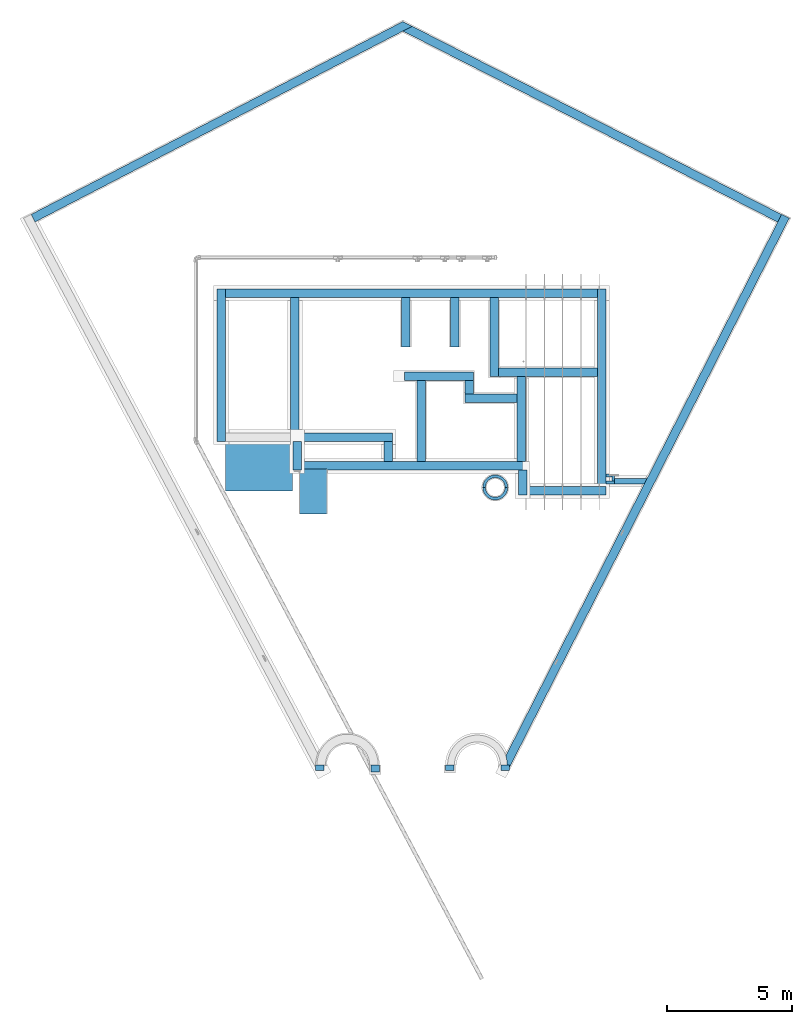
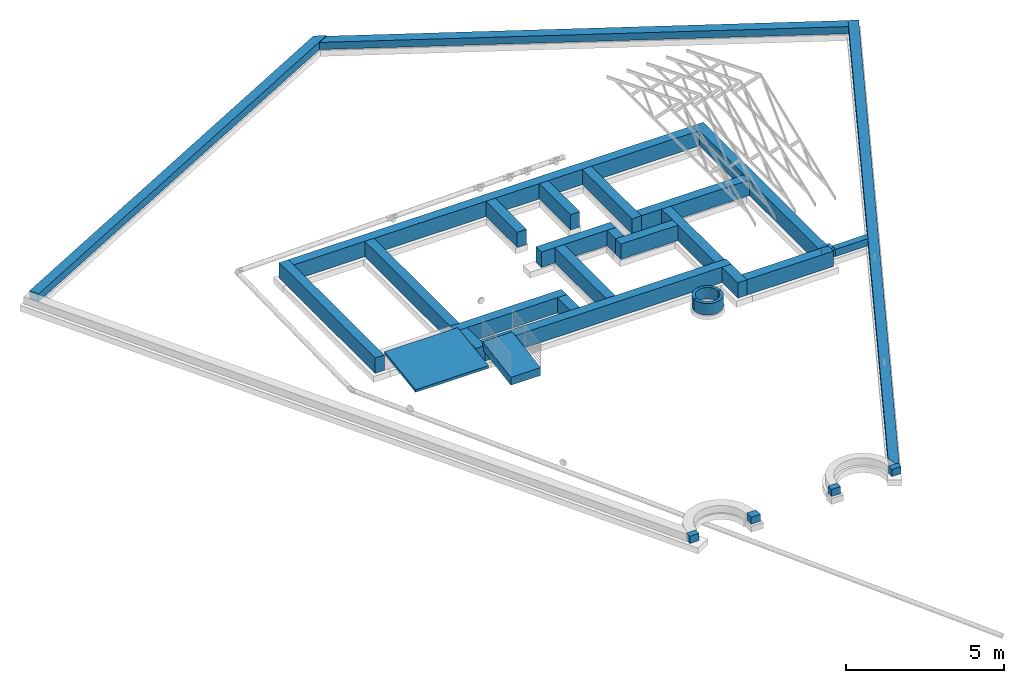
# One storey, part 2 of 8: 32 walls, 2 ramp flights, 2 elements without a shape of their own.
"""IFC2X3 building model written with IfcOpenShell, lengths in millimetres."""

from ifc_helpers import new_model, entity, si_unit, converted_unit, derived_unit, direction, frame, frame_2d, origin, place, context, subcontext, project, spatial, polyline, circle_curve, parameter, trimmed, segment, composite_curve, rectangle, outline, extrude, material, layer, layer_set, layer_usage, type_object, element, aggregate, save


model = new_model("IFC2X3")

# Units and contexts
model_context = context("Model", 3, precision=0.01, world=origin(), true_north=direction((6.12303176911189e-17, 1.0)))
body_context = subcontext(model_context, "Body", "Model", "MODEL_VIEW")
ifc_project = project(units=[si_unit("LENGTHUNIT", "METRE", prefix="MILLI"), si_unit("AREAUNIT", "SQUARE_METRE"), si_unit("VOLUMEUNIT", "CUBIC_METRE"), converted_unit("PLANEANGLEUNIT", "DEGREE", entity("IfcRatioMeasure", 0.0174532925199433), si_unit("PLANEANGLEUNIT", "RADIAN"), dimensions=[0, 0, 0, 0, 0, 0, 0]), si_unit("MASSUNIT", "GRAM", prefix="KILO"), derived_unit("MASSDENSITYUNIT", [(si_unit("MASSUNIT", "GRAM", prefix="KILO"), 1), (si_unit("LENGTHUNIT", "METRE"), -3)]), si_unit("TIMEUNIT", "SECOND"), si_unit("FREQUENCYUNIT", "HERTZ"), si_unit("THERMODYNAMICTEMPERATUREUNIT", "DEGREE_CELSIUS"), derived_unit("THERMALTRANSMITTANCEUNIT", [(si_unit("MASSUNIT", "GRAM", prefix="KILO"), 1), (si_unit("THERMODYNAMICTEMPERATUREUNIT", "KELVIN"), -1), (si_unit("TIMEUNIT", "SECOND"), -3)]), derived_unit("VOLUMETRICFLOWRATEUNIT", [(si_unit("LENGTHUNIT", "METRE"), 3), (si_unit("TIMEUNIT", "SECOND"), -1)]), si_unit("ELECTRICCURRENTUNIT", "AMPERE"), si_unit("ELECTRICVOLTAGEUNIT", "VOLT"), si_unit("POWERUNIT", "WATT"), si_unit("FORCEUNIT", "NEWTON", prefix="KILO"), si_unit("ILLUMINANCEUNIT", "LUX"), si_unit("LUMINOUSFLUXUNIT", "LUMEN"), si_unit("LUMINOUSINTENSITYUNIT", "CANDELA"), derived_unit("USERDEFINED", [(si_unit("MASSUNIT", "GRAM", prefix="KILO"), -1), (si_unit("LENGTHUNIT", "METRE"), -2), (si_unit("TIMEUNIT", "SECOND"), 3), (si_unit("LUMINOUSFLUXUNIT", "LUMEN"), 1)]), derived_unit("LINEARVELOCITYUNIT", [(si_unit("LENGTHUNIT", "METRE"), 1), (si_unit("TIMEUNIT", "SECOND"), -1)]), si_unit("PRESSUREUNIT", "PASCAL"), derived_unit("USERDEFINED", [(si_unit("LENGTHUNIT", "METRE"), -2), (si_unit("MASSUNIT", "GRAM", prefix="KILO"), 1), (si_unit("TIMEUNIT", "SECOND"), -2)])], contexts=[model_context])

# Site, building, storey
site_placement = place(None, origin())
site = spatial("IfcSite", under=ifc_project, at=site_placement, Name="Surface", CompositionType="ELEMENT")
building_placement = place(site_placement, origin())
building = spatial("IfcBuilding", under=site, at=building_placement, CompositionType="ELEMENT")
storey_placement = place(building_placement, frame((0.0, 0.0, -445.0)))
storey = spatial("IfcBuildingStorey", under=building, at=storey_placement, Name="T.O.F", CompositionType="ELEMENT", Elevation=-445.0)

# Walls
ifc_material_1 = material(Name="Brickwork - 110mm (Stock)")
ifc_layer_1 = layer(ifc_material_1, 110.0)
ifc_material_2 = material(Name="Air Infiltration Barrier")
ifc_layer_2 = layer(ifc_material_2, 120.0)
ifc_material_3 = material(Name="Brickwork - Facebrick (Plettenberg Autumn)")
ifc_layer_3 = layer(ifc_material_3, 110.0)
ifc_layer_set_1 = layer_set([ifc_layer_1, ifc_layer_2, ifc_layer_3], Name="Basic Wall:BrickWall Foundation- 340mm (2coarses F.)")
ifc_layer_usage_1 = layer_usage(ifc_layer_set_1, "AXIS2", "NEGATIVE", 170.0)
wall_type_1 = type_object("IfcWallType", Name="Basic Wall:BrickWall Foundation- 340mm (2coarses F.)", PredefinedType="STANDARD", material=ifc_layer_set_1)
wall_1_placement = place(storey_placement, frame((-11916.8751700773, 10825.8400891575, 0.0), z_axis=(0.0, 0.0, 1.0), x_axis=(0.0, -1.0, 0.0)))
element("IfcWallStandardCase", 1, at=wall_1_placement, inside=storey, type_object=wall_type_1, material=ifc_layer_usage_1, Name="Basic Wall:BrickWall Foundation- 340mm (2coarses F.)", ObjectType="Basic Wall:BrickWall Foundation- 340mm (2coarses F.)", context=body_context, shape_type="SweptSolid", body=[
    extrude(rectangle(XDim=6095.0, YDim=340.000000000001, at=frame_2d((3047.5, 0.0), x_axis=(-1.0, 0.0))), origin(), (0.0, 0.0, 1.0), 595.0),
])
ifc_layer_usage_2 = layer_usage(ifc_layer_set_1, "AXIS2", "NEGATIVE", 170.0)
wall_2_placement = place(storey_placement, frame((-8886.87517007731, 4730.84008915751, 0.0), z_axis=(0.0, 0.0, 1.0), x_axis=(0.0, -1.0, 0.0)))
element("IfcWallStandardCase", 2, at=wall_2_placement, inside=storey, type_object=wall_type_1, material=ifc_layer_usage_2, Name="Basic Wall:BrickWall Foundation- 340mm (2coarses F.)", ObjectType="Basic Wall:BrickWall Foundation- 340mm (2coarses F.)", context=body_context, shape_type="SweptSolid", body=[
    extrude(rectangle(XDim=1150.0, YDim=340.000000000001, at=frame_2d((575.000000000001, 0.0), x_axis=(-1.0, 0.0))), origin(), (0.0, 0.0, 1.0), 595.0),
])
ifc_layer_usage_3 = layer_usage(ifc_layer_set_1, "AXIS2", "NEGATIVE", 170.0)
wall_3_placement = place(storey_placement, frame((-8716.87517007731, 3750.84008915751, 0.0)))
element("IfcWallStandardCase", 3, at=wall_3_placement, inside=storey, type_object=wall_type_1, material=ifc_layer_usage_3, Name="Basic Wall:BrickWall Foundation- 340mm (2coarses F.)", ObjectType="Basic Wall:BrickWall Foundation- 340mm (2coarses F.)", context=body_context, shape_type="SweptSolid", body=[
    extrude(rectangle(XDim=9020.00000000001, YDim=340.0, at=frame_2d((4510.00000000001, -1.27897692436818e-13), x_axis=(-1.0, 0.0))), origin(), (0.0, 0.0, 1.0), 595.0),
])
ifc_layer_usage_4 = layer_usage(ifc_layer_set_1, "AXIS2", "NEGATIVE", 170.0)
wall_4_placement = place(storey_placement, frame((133.124829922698, 3580.84008915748, 0.0), z_axis=(0.0, 0.0, 1.0), x_axis=(0.0, -1.0, 0.0)))
element("IfcWallStandardCase", 4, at=wall_4_placement, inside=storey, type_object=wall_type_1, material=ifc_layer_usage_4, Name="Basic Wall:BrickWall Foundation- 340mm (2coarses F.)", ObjectType="Basic Wall:BrickWall Foundation- 340mm (2coarses F.)", context=body_context, shape_type="SweptSolid", body=[
    extrude(rectangle(XDim=999.999999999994, YDim=340.0, at=frame_2d((499.999999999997, 0.0), x_axis=(-1.0, 0.0))), origin(), (0.0, 0.0, 1.0), 595.0),
])
ifc_layer_usage_5 = layer_usage(ifc_layer_set_1, "AXIS2", "NEGATIVE", 170.0)
wall_5_placement = place(storey_placement, frame((303.124829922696, 2750.84008915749, 0.0)))
element("IfcWallStandardCase", 5, at=wall_5_placement, inside=storey, type_object=wall_type_1, material=ifc_layer_usage_5, Name="Basic Wall:BrickWall Foundation- 340mm (2coarses F.)", ObjectType="Basic Wall:BrickWall Foundation- 340mm (2coarses F.)", context=body_context, shape_type="SweptSolid", body=[
    extrude(rectangle(XDim=3160.0, YDim=340.0, at=frame_2d((1580.0, -1.4210854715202e-14), x_axis=(-1.0, 0.0))), origin(), (0.0, 0.0, 1.0), 595.0),
])
ifc_layer_usage_6 = layer_usage(ifc_layer_set_1, "AXIS2", "NEGATIVE", 170.0)
wall_6_placement = place(storey_placement, frame((3293.1248299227, 2920.84008915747, 0.0), z_axis=(0.0, 0.0, 1.0), x_axis=(0.0, 1.0, 0.0)))
element("IfcWallStandardCase", 6, at=wall_6_placement, inside=storey, type_object=wall_type_1, material=ifc_layer_usage_6, Name="Basic Wall:BrickWall Foundation- 340mm (2coarses F.)", ObjectType="Basic Wall:BrickWall Foundation- 340mm (2coarses F.)", context=body_context, shape_type="SweptSolid", body=[
    extrude(rectangle(XDim=7905.00000000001, YDim=340.0, at=frame_2d((3952.50000000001, 0.0), x_axis=(-1.0, 0.0))), origin(), (0.0, 0.0, 1.0), 595.0),
])
ifc_layer_usage_7 = layer_usage(ifc_layer_set_1, "AXIS2", "NEGATIVE", 170.0)
wall_7_placement = place(storey_placement, frame((3123.12482992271, 10655.8400891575, 0.0), z_axis=(0.0, 0.0, 1.0), x_axis=(-1.0, 0.0, 0.0)))
element("IfcWallStandardCase", 7, at=wall_7_placement, inside=storey, type_object=wall_type_1, material=ifc_layer_usage_7, Name="Basic Wall:BrickWall Foundation- 340mm (2coarses F.)", ObjectType="Basic Wall:BrickWall Foundation- 340mm (2coarses F.)", context=body_context, shape_type="SweptSolid", body=[
    extrude(rectangle(XDim=14870.0, YDim=340.000000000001, at=frame_2d((7435.00000000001, -7.67386154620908e-13), x_axis=(-1.0, 0.0))), origin(), (0.0, 0.0, 1.0), 595.0),
])
ifc_layer_4 = layer(ifc_material_1, 110.0)
ifc_layer_5 = layer(ifc_material_2, 120.0)
ifc_layer_6 = layer(ifc_material_1, 110.0)
ifc_layer_set_2 = layer_set([ifc_layer_4, ifc_layer_5, ifc_layer_6], Name="Basic Wall:BrickWall Foundation- 340mm")
ifc_layer_usage_8 = layer_usage(ifc_layer_set_2, "AXIS2", "NEGATIVE", 170.0)
wall_type_2 = type_object("IfcWallType", Name="Basic Wall:BrickWall Foundation- 340mm", PredefinedType="STANDARD", material=ifc_layer_set_2)
wall_8_placement = place(storey_placement, frame((-9141.87517007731, 4900.84008915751, 0.0)))
element("IfcWallStandardCase", 8, at=wall_8_placement, inside=storey, type_object=wall_type_2, material=ifc_layer_usage_8, Name="Basic Wall:BrickWall Foundation- 340mm", ObjectType="Basic Wall:BrickWall Foundation- 340mm", context=body_context, shape_type="SweptSolid", body=[
    extrude(rectangle(XDim=4080.00000000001, YDim=340.0, at=frame_2d((2040.00000000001, -1.84741111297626e-13), x_axis=(-1.0, 0.0))), origin(), (0.0, 0.0, 1.0), 595.0),
])
ifc_layer_usage_9 = layer_usage(ifc_layer_set_2, "AXIS2", "NEGATIVE", 170.0)
wall_9_placement = place(storey_placement, frame((-3921.8751700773, 7170.84008915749, 0.0), z_axis=(0.0, 0.0, 1.0), x_axis=(0.0, -1.0, 0.0)))
element("IfcWallStandardCase", 9, at=wall_9_placement, inside=storey, type_object=wall_type_2, material=ifc_layer_usage_9, Name="Basic Wall:BrickWall Foundation- 340mm", ObjectType="Basic Wall:BrickWall Foundation- 340mm", context=body_context, shape_type="SweptSolid", body=[
    extrude(rectangle(XDim=3250.0, YDim=340.0, at=frame_2d((1625.0, -8.5265128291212e-14), x_axis=(-1.0, 0.0))), origin(), (0.0, 0.0, 1.0), 595.0),
])
ifc_layer_usage_10 = layer_usage(ifc_layer_set_2, "AXIS2", "NEGATIVE", 170.0)
wall_10_placement = place(storey_placement, frame((-4586.8751700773, 7340.84008915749, 0.0)))
element("IfcWallStandardCase", 10, at=wall_10_placement, inside=storey, type_object=wall_type_2, material=ifc_layer_usage_10, Name="Basic Wall:BrickWall Foundation- 340mm", ObjectType="Basic Wall:BrickWall Foundation- 340mm", context=body_context, shape_type="SweptSolid", body=[
    extrude(rectangle(XDim=2745.0, YDim=340.000000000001, at=frame_2d((1372.5, 1.84741111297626e-13), x_axis=(-1.0, 0.0))), origin(), (0.0, 0.0, 1.0), 595.0),
])
ifc_layer_usage_11 = layer_usage(ifc_layer_set_2, "AXIS2", "NEGATIVE", 170.0)
wall_11_placement = place(storey_placement, frame((-2011.8751700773, 6630.84008915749, 0.0), z_axis=(0.0, 0.0, 1.0), x_axis=(0.0, 1.0, 0.0)))
element("IfcWallStandardCase", 11, at=wall_11_placement, inside=storey, type_object=wall_type_2, material=ifc_layer_usage_11, Name="Basic Wall:BrickWall Foundation- 340mm", ObjectType="Basic Wall:BrickWall Foundation- 340mm", context=body_context, shape_type="SweptSolid", body=[
    extrude(rectangle(XDim=539.999999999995, YDim=340.0, at=frame_2d((269.999999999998, 0.0), x_axis=(-1.0, 0.0))), origin(), (0.0, 0.0, 1.0), 595.0),
])
ifc_layer_usage_12 = layer_usage(ifc_layer_set_2, "AXIS2", "NEGATIVE", 170.0)
wall_12_placement = place(storey_placement, frame((-2181.8751700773, 6460.84008915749, 0.0)))
element("IfcWallStandardCase", 12, at=wall_12_placement, inside=storey, type_object=wall_type_2, material=ifc_layer_usage_12, Name="Basic Wall:BrickWall Foundation- 340mm", ObjectType="Basic Wall:BrickWall Foundation- 340mm", context=body_context, shape_type="SweptSolid", body=[
    extrude(rectangle(XDim=2090.0, YDim=340.000000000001, at=frame_2d((1045.0, -1.56319401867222e-13), x_axis=(-1.0, 0.0))), origin(), (0.0, 0.0, 1.0), 595.0),
])
ifc_layer_usage_13 = layer_usage(ifc_layer_set_2, "AXIS2", "NEGATIVE", 170.0)
wall_13_placement = place(storey_placement, frame((-1001.8751700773, 10485.8400891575, 0.0), z_axis=(0.0, 0.0, 1.0), x_axis=(0.0, -1.0, 0.0)))
element("IfcWallStandardCase", 13, at=wall_13_placement, inside=storey, type_object=wall_type_2, material=ifc_layer_usage_13, Name="Basic Wall:BrickWall Foundation- 340mm", ObjectType="Basic Wall:BrickWall Foundation- 340mm", context=body_context, shape_type="SweptSolid", body=[
    extrude(rectangle(XDim=3165.0, YDim=340.0, at=frame_2d((1582.5, 1.4210854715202e-14), x_axis=(-1.0, 0.0))), origin(), (0.0, 0.0, 1.0), 595.0),
])
ifc_layer_usage_14 = layer_usage(ifc_layer_set_2, "AXIS2", "NEGATIVE", 170.0)
wall_14_placement = place(storey_placement, frame((-4531.8751700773, 10485.8400891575, 0.0), z_axis=(0.0, 0.0, 1.0), x_axis=(0.0, -1.0, 0.0)))
element("IfcWallStandardCase", 14, at=wall_14_placement, inside=storey, type_object=wall_type_2, material=ifc_layer_usage_14, Name="Basic Wall:BrickWall Foundation- 340mm", ObjectType="Basic Wall:BrickWall Foundation- 340mm", context=body_context, shape_type="SweptSolid", body=[
    extrude(rectangle(XDim=1985.0, YDim=340.0, at=frame_2d((992.500000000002, -1.27897692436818e-13), x_axis=(-1.0, 0.0))), origin(), (0.0, 0.0, 1.0), 595.0),
])
ifc_layer_usage_15 = layer_usage(ifc_layer_set_2, "AXIS2", "NEGATIVE", 170.0)
wall_15_placement = place(storey_placement, frame((-2581.8751700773, 10485.8400891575, 0.0), z_axis=(0.0, 0.0, 1.0), x_axis=(0.0, -1.0, 0.0)))
element("IfcWallStandardCase", 15, at=wall_15_placement, inside=storey, type_object=wall_type_2, material=ifc_layer_usage_15, Name="Basic Wall:BrickWall Foundation- 340mm", ObjectType="Basic Wall:BrickWall Foundation- 340mm", context=body_context, shape_type="SweptSolid", body=[
    extrude(rectangle(XDim=1985.00000000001, YDim=340.0, at=frame_2d((992.500000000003, 1.27897692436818e-13), x_axis=(-1.0, 0.0))), origin(), (0.0, 0.0, 1.0), 595.0),
])
ifc_layer_usage_16 = layer_usage(ifc_layer_set_2, "AXIS2", "NEGATIVE", 170.0)
wall_16_placement = place(storey_placement, frame((78.1248299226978, 3920.84008915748, 0.0), z_axis=(0.0, 0.0, 1.0), x_axis=(0.0, 1.0, 0.0)))
element("IfcWallStandardCase", 16, at=wall_16_placement, inside=storey, type_object=wall_type_2, material=ifc_layer_usage_16, Name="Basic Wall:BrickWall Foundation- 340mm", ObjectType="Basic Wall:BrickWall Foundation- 340mm", context=body_context, shape_type="SweptSolid", body=[
    extrude(rectangle(XDim=3400.00000000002, YDim=340.0, at=frame_2d((1700.00000000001, 0.0), x_axis=(-1.0, 0.0))), origin(), (0.0, 0.0, 1.0), 595.0),
])
ifc_layer_usage_17 = layer_usage(ifc_layer_set_2, "AXIS2", "NEGATIVE", 170.0)
wall_17_placement = place(storey_placement, frame((-5231.8751700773, 3920.8400891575, 0.0), z_axis=(0.0, 0.0, 1.0), x_axis=(0.0, 1.0, 0.0)))
element("IfcWallStandardCase", 17, at=wall_17_placement, inside=storey, type_object=wall_type_2, material=ifc_layer_usage_17, Name="Basic Wall:BrickWall Foundation- 340mm", ObjectType="Basic Wall:BrickWall Foundation- 340mm", context=body_context, shape_type="SweptSolid", body=[
    extrude(rectangle(XDim=810.000000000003, YDim=340.000000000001, at=frame_2d((405.000000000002, -3.26849658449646e-13), x_axis=(-1.0, 0.0))), origin(), (0.0, 0.0, 1.0), 595.0),
])
ifc_layer_usage_18 = layer_usage(ifc_layer_set_2, "AXIS2", "NEGATIVE", 170.0)
wall_18_placement = place(storey_placement, frame((-8971.87517007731, 5070.84008915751, 0.0), z_axis=(0.0, 0.0, 1.0), x_axis=(0.0, 1.0, 0.0)))
element("IfcWallStandardCase", 18, at=wall_18_placement, inside=storey, type_object=wall_type_2, material=ifc_layer_usage_18, Name="Basic Wall:BrickWall Foundation- 340mm", ObjectType="Basic Wall:BrickWall Foundation- 340mm", context=body_context, shape_type="SweptSolid", body=[
    extrude(rectangle(XDim=5415.0, YDim=340.000000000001, at=frame_2d((2707.5, -9.9475983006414e-14), x_axis=(-1.0, 0.0))), origin(), (0.0, 0.0, 1.0), 595.0),
])
ifc_layer_usage_19 = layer_usage(ifc_layer_set_2, "AXIS2", "POSITIVE", -170.0)
wall_19_placement = place(storey_placement, frame((-831.875170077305, 7490.8400891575, 0.0)))
element("IfcWallStandardCase", 19, at=wall_19_placement, inside=storey, type_object=wall_type_2, material=ifc_layer_usage_19, Name="Basic Wall:BrickWall Foundation- 340mm", ObjectType="Basic Wall:BrickWall Foundation- 340mm", context=body_context, shape_type="SweptSolid", body=[
    extrude(rectangle(XDim=3955.00000000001, YDim=340.000000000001, at=frame_2d((1977.5, -1.4210854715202e-14), x_axis=(-1.0, 0.0))), origin(), (0.0, 0.0, 1.0), 595.0),
])
ifc_layer_usage_20 = layer_usage(ifc_layer_set_2, "AXIS2", "NEGATIVE", 170.0)
wall_20_placement = place(storey_placement, frame((-2787.30297205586, -8419.15991084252, 0.0), z_axis=(0.0, 0.0, 1.0), x_axis=(0.0, 1.0, 0.0)))
element("IfcWallStandardCase", 20, at=wall_20_placement, inside=storey, type_object=wall_type_2, material=ifc_layer_usage_20, Name="Basic Wall:BrickWall Foundation- 340mm", ObjectType="Basic Wall:BrickWall Foundation- 340mm", context=body_context, shape_type="SweptSolid", body=[
    extrude(rectangle(XDim=220.000000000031, YDim=340.0, at=frame_2d((110.000000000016, 0.0), x_axis=(-1.0, 0.0))), origin(), (0.0, 0.0, 1.0), 275.0),
])
ifc_layer_usage_21 = layer_usage(ifc_layer_set_2, "AXIS2", "NEGATIVE", 170.0)
wall_21_placement = place(storey_placement, frame((-567.302972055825, -8419.15991084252, 0.0), z_axis=(0.0, 0.0, 1.0), x_axis=(0.0, 1.0, 0.0)))
element("IfcWallStandardCase", 21, at=wall_21_placement, inside=storey, type_object=wall_type_2, material=ifc_layer_usage_21, Name="Basic Wall:BrickWall Foundation- 340mm", ObjectType="Basic Wall:BrickWall Foundation- 340mm", context=body_context, shape_type="SweptSolid", body=[
    extrude(rectangle(XDim=219.999999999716, YDim=340.0, at=frame_2d((109.999999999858, 0.0), x_axis=(-1.0, 0.0))), origin(), (0.0, 0.0, 1.0), 275.0),
])
ifc_layer_usage_22 = layer_usage(ifc_layer_set_2, "AXIS2", "NEGATIVE", 170.0)
wall_22_placement = place(storey_placement, frame((-5756.87517007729, -8474.15991084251, 0.0), z_axis=(0.0, 0.0, 1.0), x_axis=(0.0, 1.0, 0.0)))
element("IfcWallStandardCase", 22, at=wall_22_placement, inside=storey, type_object=wall_type_2, material=ifc_layer_usage_22, Name="Basic Wall:BrickWall Foundation- 340mm", ObjectType="Basic Wall:BrickWall Foundation- 340mm", context=body_context, shape_type="SweptSolid", body=[
    extrude(rectangle(XDim=274.999999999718, YDim=340.000000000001, at=frame_2d((137.499999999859, 0.0), x_axis=(-1.0, 0.0))), origin(), (0.0, 0.0, 1.0), 275.0),
])
ifc_layer_usage_23 = layer_usage(ifc_layer_set_2, "AXIS2", "NEGATIVE", 170.0)
wall_23_placement = place(storey_placement, frame((-7976.87517007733, -8419.1599108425, 0.0), z_axis=(0.0, 0.0, 1.0), x_axis=(0.0, 1.0, 0.0)))
element("IfcWallStandardCase", 23, at=wall_23_placement, inside=storey, type_object=wall_type_2, material=ifc_layer_usage_23, Name="Basic Wall:BrickWall Foundation- 340mm", ObjectType="Basic Wall:BrickWall Foundation- 340mm", context=body_context, shape_type="SweptSolid", body=[
    extrude(rectangle(XDim=220.000000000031, YDim=340.000000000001, at=frame_2d((110.000000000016, 0.0), x_axis=(-1.0, 0.0))), origin(), (0.0, 0.0, 1.0), 275.0),
])
ifc_layer_usage_24 = layer_usage(ifc_layer_set_2, "AXIS2", "POSITIVE", -170.0)
wall_24_placement = place(storey_placement, frame((-548.774081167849, -8224.22489555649, 0.0), z_axis=(0.0, 0.0, 1.0), x_axis=(0.453990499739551, 0.891006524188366, 0.0)))
element("IfcWallStandardCase", 24, at=wall_24_placement, inside=storey, type_object=wall_type_2, material=ifc_layer_usage_24, Name="Basic Wall:BrickWall Foundation- 340mm", ObjectType="Basic Wall:BrickWall Foundation- 340mm", context=body_context, shape_type="SweptSolid", body=[
    extrude(outline(composite_curve([segment(polyline([(24639.1866109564, -170.0), (24639.1866109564, 170.0)]), True, "CONTINUOUS"), segment(polyline([(24639.1866109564, 170.0), (24631.9578022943, 170.0)]), True, "CONTINUOUS"), segment(polyline([(24631.9578022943, 170.0), (24291.9578022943, 170.0)]), True, "CONTINUOUS"), segment(polyline([(24291.9578022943, 170.0), (12798.8581786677, 170.0)]), True, "CONTINUOUS"), segment(polyline([(12798.8581786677, 170.0), (12540.7231440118, 170.0)]), True, "CONTINUOUS"), segment(polyline([(12540.7231440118, 170.0), (345.964425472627, 170.0)]), True, "CONTINUOUS"), segment(trimmed(circle_curve(frame_2d((-490.008330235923, 1016.90586945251), x_axis=(0.891006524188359, 0.453990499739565)), 1190.00000000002), [parameter(270.0)], [parameter(287.62777323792)], True, "PARAMETER"), False, "CONTINUOUS"), segment(polyline([(50.2403644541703, -43.3918943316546), (91.0995094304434, -123.582481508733)]), True, "CONTINUOUS"), segment(polyline([(91.0995094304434, -123.582481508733), (0.0, -170.0)]), True, "CONTINUOUS"), segment(polyline([(0.0, -170.0), (24639.1866109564, -170.0)]), True, "CONTINUOUS")], self_intersect=False)), origin(), (0.0, 0.0, 1.0), 275.0),
])
ifc_layer_usage_25 = layer_usage(ifc_layer_set_2, "AXIS2", "NEGATIVE", 170.0)
wall_25_placement = place(storey_placement, frame((-19440.0388638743, 13653.6035194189, 0.0), z_axis=(0.0, 0.0, 1.0), x_axis=(0.887635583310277, 0.460546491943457, 0.0)))
element("IfcWallStandardCase", 25, at=wall_25_placement, inside=storey, type_object=wall_type_2, material=ifc_layer_usage_25, Name="Basic Wall:BrickWall Foundation- 340mm", ObjectType="Basic Wall:BrickWall Foundation- 340mm", context=body_context, shape_type="SweptSolid", body=[
    extrude(outline(polyline([(16984.5753907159, -170.0), (16741.3600934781, 170.0), (0.0, 170.0), (3.42779851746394, -170.0), (16566.5398888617, -170.0), (16984.5753907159, -170.0)])), origin(), (0.0, 0.0, 1.0), 300.0),
])
ifc_layer_usage_26 = layer_usage(ifc_layer_set_2, "AXIS2", "POSITIVE", -170.0)
wall_26_placement = place(storey_placement, frame((10405.2512569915, 13648.717485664, 0.0), z_axis=(0.0, 0.0, 1.0), x_axis=(-0.891006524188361, 0.45399049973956, 0.0)))
element("IfcWallStandardCase", 26, at=wall_26_placement, inside=storey, type_object=wall_type_2, material=ifc_layer_usage_26, Name="Basic Wall:BrickWall Foundation- 340mm", ObjectType="Basic Wall:BrickWall Foundation- 340mm", context=body_context, shape_type="SweptSolid", body=[
    extrude(outline(polyline([(16574.5835940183, -170.0), (16817.7988912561, 170.0), (0.0, 170.0), (0.0, -170.0), (16574.5835940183, -170.0)])), origin(), (0.0, 0.0, 1.0), 275.0),
])
ifc_layer_7 = layer(ifc_material_1, 110.0)
ifc_layer_8 = layer(ifc_material_2, 10.0)
ifc_layer_9 = layer(ifc_material_1, 110.0)
ifc_layer_set_3 = layer_set([ifc_layer_7, ifc_layer_8, ifc_layer_9], Name="Basic Wall:BrickWall Foundation- 230mm")
ifc_layer_usage_27 = layer_usage(ifc_layer_set_3, "AXIS2", "NEGATIVE", 115.0)
wall_type_3 = type_object("IfcWallType", Name="Basic Wall:BrickWall Foundation- 230mm", PredefinedType="STANDARD", material=ifc_layer_set_3)
wall_27_placement = place(storey_placement, frame((3803.12482992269, 3141.81962875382, 0.0)))
element("IfcWallStandardCase", 27, at=wall_27_placement, inside=storey, type_object=wall_type_3, material=ifc_layer_usage_27, Name="Basic Wall:BrickWall Foundation- 230mm", ObjectType="Basic Wall:BrickWall Foundation- 230mm", context=body_context, shape_type="SweptSolid", body=[
    extrude(outline(polyline([(1189.99914704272, -115.0), (1307.19000042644, 115.0), (0.0, 115.0), (0.0, 0.0), (0.0, -110.0), (0.0, -115.0), (1189.99914704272, -115.0)])), origin(), (0.0, 0.0, 1.0), 275.0),
])
ifc_layer_10 = layer(ifc_material_1, 110.0)
ifc_layer_set_4 = layer_set([ifc_layer_10], Name="Basic Wall:Foundation BrickWall - 110mm")
ifc_layer_usage_28 = layer_usage(ifc_layer_set_4, "AXIS2", "NEGATIVE", 55.0)
wall_type_4 = type_object("IfcWallType", Name="Basic Wall:Foundation BrickWall - 110mm", PredefinedType="STANDARD", material=ifc_layer_set_4)
wall_28_placement = place(storey_placement, frame((3463.1248299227, 3086.81962875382, 0.0)))
element("IfcWallStandardCase", 28, at=wall_28_placement, inside=storey, type_object=wall_type_4, material=ifc_layer_usage_28, Name="Basic Wall:Foundation BrickWall - 110mm", ObjectType="Basic Wall:Foundation BrickWall - 110mm", context=body_context, shape_type="SweptSolid", body=[
    extrude(rectangle(XDim=339.999999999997, YDim=110.0, at=frame_2d((169.999999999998, 0.0), x_axis=(-1.0, 0.0))), origin(), (0.0, 0.0, 1.0), 275.0),
])
ifc_layer_usage_29 = layer_usage(ifc_layer_set_4, "AXIS2", "POSITIVE", -55.0)
wall_29_placement = place(storey_placement, frame((3748.12482992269, 3141.81962875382, 0.0), z_axis=(0.0, 0.0, 1.0), x_axis=(0.0, 1.0, 0.0)))
element("IfcWallStandardCase", 29, at=wall_29_placement, inside=storey, type_object=wall_type_4, material=ifc_layer_usage_29, Name="Basic Wall:Foundation BrickWall - 110mm", ObjectType="Basic Wall:Foundation BrickWall - 110mm", context=body_context, shape_type="SweptSolid", body=[
    extrude(rectangle(XDim=285.0, YDim=110.0, at=frame_2d((142.5, -4.2632564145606e-14), x_axis=(-1.0, 0.0))), origin(), (0.0, 0.0, 1.0), 275.0),
])
ifc_layer_usage_30 = layer_usage(ifc_layer_set_4, "AXIS2", "POSITIVE", -55.0)
wall_30_placement = place(storey_placement, frame((3693.12482992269, 3371.81962875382, 0.0), z_axis=(0.0, 0.0, 1.0), x_axis=(-1.0, 0.0, 0.0)))
element("IfcWallStandardCase", 30, at=wall_30_placement, inside=storey, type_object=wall_type_4, material=ifc_layer_usage_30, Name="Basic Wall:Foundation BrickWall - 110mm", ObjectType="Basic Wall:Foundation BrickWall - 110mm", context=body_context, shape_type="SweptSolid", body=[
    extrude(rectangle(XDim=229.999999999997, YDim=110.0, at=frame_2d((114.999999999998, -1.74082970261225e-13), x_axis=(-1.0, 0.0))), origin(), (0.0, 0.0, 1.0), 275.0),
])
ifc_layer_11 = layer(ifc_material_1, 110.0)
ifc_layer_set_5 = layer_set([ifc_layer_11], Name="Basic Wall:BrickWall - 110mm")
ifc_layer_usage_31 = layer_usage(ifc_layer_set_5, "AXIS2", "NEGATIVE", 55.0)
wall_type_5 = type_object("IfcWallType", Name="Basic Wall:BrickWall - 110mm", PredefinedType="STANDARD", material=ifc_layer_set_5)
wall_31_placement = place(storey_placement, frame((-519.151763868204, 2891.42863490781, -170.0)))
element("IfcWallStandardCase", 31, at=wall_31_placement, inside=storey, type_object=wall_type_5, material=ifc_layer_usage_31, Name="Basic Wall:BrickWall - 110mm", ObjectType="Basic Wall:BrickWall - 110mm", context=body_context, shape_type="SweptSolid", body=[
    extrude(outline(composite_curve([segment(trimmed(circle_curve(frame_2d((-445.0, 0.0), x_axis=(1.0, 0.0)), 390.0), [parameter(0.0)], [parameter(180.0)], True, "PARAMETER"), False, "CONTINUOUS"), segment(polyline([(-55.0, 0.0), (55.0, 0.0)]), True, "CONTINUOUS"), segment(trimmed(circle_curve(frame_2d((-445.0, 0.0), x_axis=(1.0, 0.0)), 500.0), [parameter(0.0)], [parameter(180.0)], True, "PARAMETER"), True, "CONTINUOUS"), segment(polyline([(-945.0, 0.0), (-835.0, 0.0)]), True, "CONTINUOUS")], self_intersect=False)), origin(), (0.0, 0.0, 1.0), 445.0),
])
ifc_layer_usage_32 = layer_usage(ifc_layer_set_5, "AXIS2", "NEGATIVE", 55.0)
wall_32_placement = place(storey_placement, frame((-1409.1517638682, 2891.42863490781, -170.0)))
element("IfcWallStandardCase", 32, at=wall_32_placement, inside=storey, type_object=wall_type_5, material=ifc_layer_usage_32, Name="Basic Wall:BrickWall - 110mm", ObjectType="Basic Wall:BrickWall - 110mm", context=body_context, shape_type="SweptSolid", body=[
    extrude(outline(composite_curve([segment(trimmed(circle_curve(frame_2d((445.0, 0.0), x_axis=(1.0, 0.0)), 390.0), [parameter(180.0)], [parameter(0.0)], True, "PARAMETER"), False, "CONTINUOUS"), segment(polyline([(55.0, 0.0), (-55.0, 0.0)]), True, "CONTINUOUS"), segment(trimmed(circle_curve(frame_2d((445.0, 0.0), x_axis=(1.0, 0.0)), 500.0), [parameter(180.0)], [parameter(0.0)], True, "PARAMETER"), True, "CONTINUOUS"), segment(polyline([(945.0, 0.0), (835.0, 0.0)]), True, "CONTINUOUS")], self_intersect=False)), origin(), (0.0, 0.0, 1.0), 445.0),
])

# Ramp, ramp flight
ramp_1_placement = place(storey_placement, origin())
ramp_1 = element("IfcRamp", 33, at=ramp_1_placement, inside=storey, Name="Ramp:Ramp 1", ObjectType="Ramp:Ramp 1", ShapeType="NOTDEFINED")
ifc_material_4 = material(Name="Concrete, Cast In Situ")
ramp_flight_1_placement = place(ramp_1_placement, origin())
ramp_flight_1 = element("IfcRampFlight", 34, at=ramp_flight_1_placement, material=ifc_material_4, Name="Ramp:Ramp 1:1", ObjectType="Ramp:Ramp 1", context=body_context, shape_type="SweptSolid", body=[
    extrude(outline(polyline([(90.2066584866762, -985.0), (191.221912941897, -985.0), (-90.2066584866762, 985.0), (-191.221912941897, 985.0), (90.2066584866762, -985.0)])), frame((-11746.8751700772, 3735.84008915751, 535.206658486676), z_axis=(1.0, 0.0, 0.0), x_axis=(0.0, 0.0, -1.0)), (0.0, 0.0, 1.0), 2679.99999999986),
])
aggregate(ramp_1, [ramp_flight_1])

ramp_2_placement = place(storey_placement, origin())
ramp_2 = element("IfcRamp", 35, at=ramp_2_placement, inside=storey, Name="Ramp:Ramp 2", ObjectType="Ramp:Ramp 2", ShapeType="NOTDEFINED")
ramp_flight_2_placement = place(ramp_2_placement, origin())
ramp_flight_2 = element("IfcRampFlight", 36, at=ramp_flight_2_placement, material=ifc_material_4, Name="Ramp:Ramp 2:1", ObjectType="Ramp:Ramp 2", context=body_context, shape_type="SweptSolid", body=[
    extrude(outline(polyline([(-6.35934496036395, -902.591169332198), (297.517786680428, -902.591169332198), (6.35934496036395, 902.591169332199), (-297.517786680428, 902.591169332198), (-6.35934496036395, -902.591169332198)])), frame((-8786.87517007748, 2733.24891982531, 438.640655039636), z_axis=(1.0, 0.0, 0.0), x_axis=(0.0, 0.0, -1.0)), (0.0, 0.0, 1.0), 1095.00000000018),
])
aggregate(ramp_2, [ramp_flight_2])

save(model, "model.ifc")
